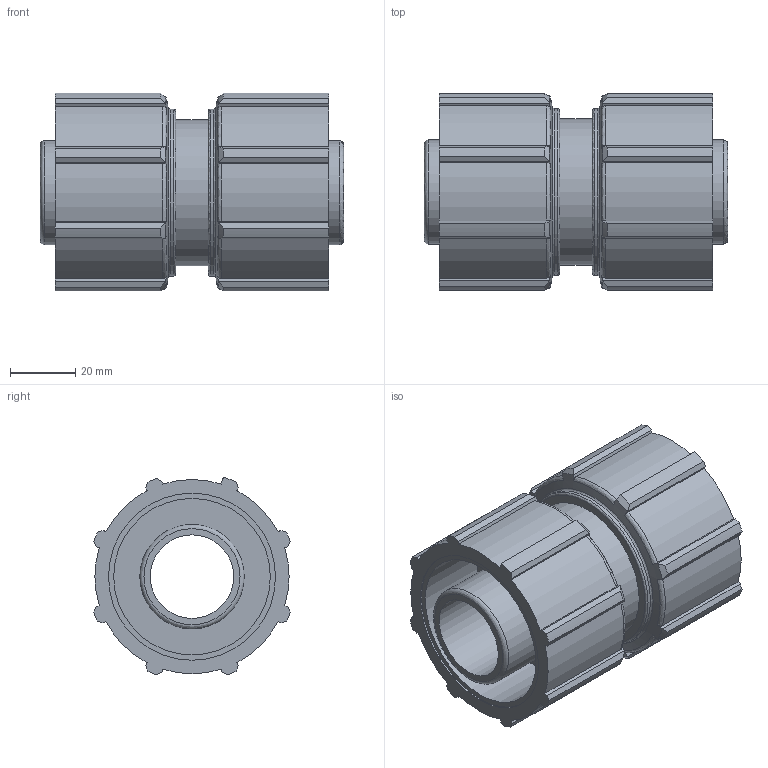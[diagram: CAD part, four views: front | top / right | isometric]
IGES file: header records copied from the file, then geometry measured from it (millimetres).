
Global section: file name: 079400032__0794060320A.ipt; native system: Autodesk Inventor 2015; preprocessor: unknown; author: KIM; date: 20180731.142052; units: millimetre
Bounding box: 93 x 60.22 x 60.63 mm (x, y, z)
Volume: 135165.8 mm3; surface area: 43629.4 mm2
Topology: 1 solids, 1 shells, 154 faces, 446 edges, 302 vertices
Faces by surface type: plane 72, cylinder 37, revolution 27, cone 18
Full cylindrical faces by diameter (mm): 32 x2, 44.8 x1, 51.2 x2
